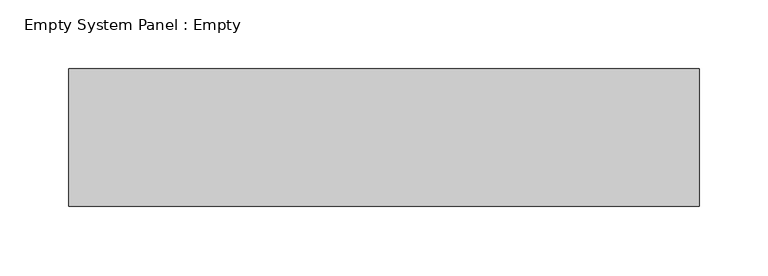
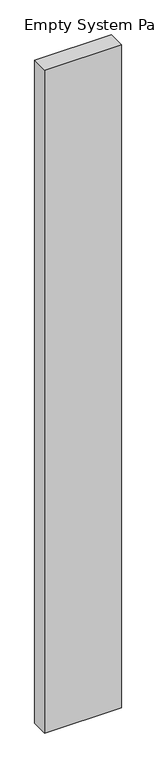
"""IFC4 building model written with IfcOpenShell, lengths in millimetres: plate geometry, Empty System Panel : Empty."""

from ifc_helpers import new_model, si_unit, origin, origin_with_axes, place, context, project, spatial, polyline, outline, extrude, source, transform, mapped, element, save


def empty_system_panel_empty_f2c2cbee(model_context):
    return source(origin(), model_context, "Body", "SweptSolid", [
        extrude(outline(polyline([(229.6046705, -50.0), (-229.6046705, -50.0), (-229.6046705, 50.0), (229.6046705, 50.0), (229.6046705, -50.0)])), origin_with_axes(), (0.0, 0.0, 1.0), 4181.259985),
    ])


if __name__ == "__main__":
    model = new_model("IFC4")
    model_context = context("Model", 3, world=origin())
    ifc_project = project(units=[si_unit("LENGTHUNIT", "METRE", prefix="MILLI")], contexts=[model_context])
    site = spatial("IfcSite", under=ifc_project)
    building = spatial("IfcBuilding", under=site)
    placement = place(None, origin())
    empty_system_panel_empty_shape = empty_system_panel_empty_f2c2cbee(model_context)
    element("IfcPlate", 1, ObjectType="Empty System Panel : Empty", at=placement, inside=building, context=model_context, shape_type="MappedRepresentation", body=[
        mapped(empty_system_panel_empty_shape, transform((0.0, 0.0, 0.0), x_axis=(1.0, 0.0, 0.0), y_axis=(0.0, 1.0, 0.0), z_axis=(0.0, 0.0, 1.0))),
    ])
    save(model, "model.ifc")
